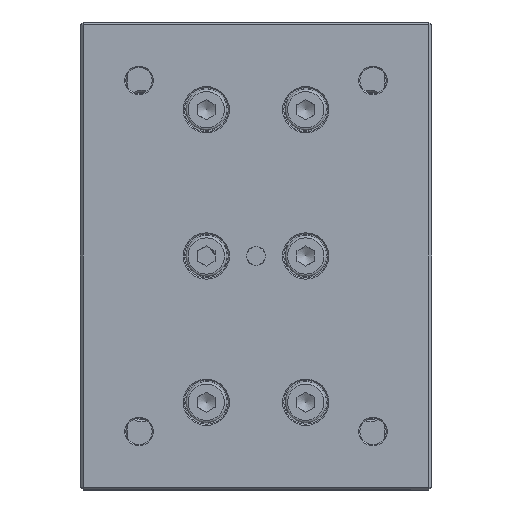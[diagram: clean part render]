
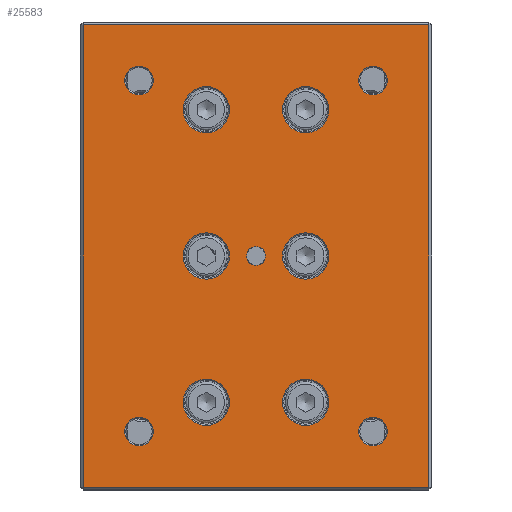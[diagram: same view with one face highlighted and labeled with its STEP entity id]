
A CAD part, front view. The second image highlights one B-rep face of the part: STEP entity #25583.
In plain terms, the highlighted planar face has unit normal (0, -1, 0).
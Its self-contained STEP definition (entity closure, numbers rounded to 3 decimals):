
#845=FACE_BOUND('',#3994,.T.);
#846=FACE_BOUND('',#3995,.T.);
#847=FACE_BOUND('',#3996,.T.);
#848=FACE_BOUND('',#3997,.T.);
#849=FACE_BOUND('',#3998,.T.);
#850=FACE_BOUND('',#3999,.T.);
#851=FACE_BOUND('',#4000,.T.);
#852=FACE_BOUND('',#4001,.T.);
#853=FACE_BOUND('',#4002,.T.);
#854=FACE_BOUND('',#4003,.T.);
#855=FACE_BOUND('',#4004,.T.);
#1489=PLANE('',#27237);
#2541=FACE_OUTER_BOUND('',#3993,.T.);
#3993=EDGE_LOOP('',(#19051,#19052,#19053,#19054));
#3994=EDGE_LOOP('',(#19055));
#3995=EDGE_LOOP('',(#19056));
#3996=EDGE_LOOP('',(#19057));
#3997=EDGE_LOOP('',(#19058));
#3998=EDGE_LOOP('',(#19059));
#3999=EDGE_LOOP('',(#19060));
#4000=EDGE_LOOP('',(#19061));
#4001=EDGE_LOOP('',(#19062));
#4002=EDGE_LOOP('',(#19063));
#4003=EDGE_LOOP('',(#19064));
#4004=EDGE_LOOP('',(#19065));
#5180=CIRCLE('',#27238,2.45);
#5181=CIRCLE('',#27239,2.45);
#5182=CIRCLE('',#27240,3.95);
#5183=CIRCLE('',#27241,3.95);
#5184=CIRCLE('',#27242,3.95);
#5185=CIRCLE('',#27243,1.621);
#5186=CIRCLE('',#27244,3.95);
#5187=CIRCLE('',#27245,3.95);
#5188=CIRCLE('',#27246,3.95);
#5189=CIRCLE('',#27247,2.45);
#5190=CIRCLE('',#27248,2.45);
#6550=LINE('',#38638,#8878);
#6552=LINE('',#38641,#8880);
#6553=LINE('',#38643,#8881);
#6559=LINE('',#38654,#8887);
#8878=VECTOR('',#30705,10.);
#8880=VECTOR('',#30709,10.);
#8881=VECTOR('',#30712,10.);
#8887=VECTOR('',#30728,10.);
#11235=VERTEX_POINT('',#38606);
#11237=VERTEX_POINT('',#38612);
#11242=VERTEX_POINT('',#38626);
#11244=VERTEX_POINT('',#38631);
#11247=VERTEX_POINT('',#38674);
#11248=VERTEX_POINT('',#38676);
#11249=VERTEX_POINT('',#38678);
#11250=VERTEX_POINT('',#38680);
#11251=VERTEX_POINT('',#38682);
#11252=VERTEX_POINT('',#38684);
#11253=VERTEX_POINT('',#38686);
#11254=VERTEX_POINT('',#38688);
#11255=VERTEX_POINT('',#38690);
#11256=VERTEX_POINT('',#38692);
#11257=VERTEX_POINT('',#38694);
#14077=EDGE_CURVE('',#11237,#11244,#6550,.T.);
#14079=EDGE_CURVE('',#11244,#11242,#6552,.T.);
#14080=EDGE_CURVE('',#11242,#11235,#6553,.T.);
#14086=EDGE_CURVE('',#11235,#11237,#6559,.T.);
#14096=EDGE_CURVE('',#11247,#11247,#5180,.T.);
#14097=EDGE_CURVE('',#11248,#11248,#5181,.T.);
#14098=EDGE_CURVE('',#11249,#11249,#5182,.T.);
#14099=EDGE_CURVE('',#11250,#11250,#5183,.T.);
#14100=EDGE_CURVE('',#11251,#11251,#5184,.T.);
#14101=EDGE_CURVE('',#11252,#11252,#5185,.T.);
#14102=EDGE_CURVE('',#11253,#11253,#5186,.T.);
#14103=EDGE_CURVE('',#11254,#11254,#5187,.T.);
#14104=EDGE_CURVE('',#11255,#11255,#5188,.T.);
#14105=EDGE_CURVE('',#11256,#11256,#5189,.T.);
#14106=EDGE_CURVE('',#11257,#11257,#5190,.T.);
#19051=ORIENTED_EDGE('',*,*,#14077,.F.);
#19052=ORIENTED_EDGE('',*,*,#14086,.F.);
#19053=ORIENTED_EDGE('',*,*,#14080,.F.);
#19054=ORIENTED_EDGE('',*,*,#14079,.F.);
#19055=ORIENTED_EDGE('',*,*,#14096,.F.);
#19056=ORIENTED_EDGE('',*,*,#14097,.F.);
#19057=ORIENTED_EDGE('',*,*,#14098,.F.);
#19058=ORIENTED_EDGE('',*,*,#14099,.F.);
#19059=ORIENTED_EDGE('',*,*,#14100,.F.);
#19060=ORIENTED_EDGE('',*,*,#14101,.T.);
#19061=ORIENTED_EDGE('',*,*,#14102,.F.);
#19062=ORIENTED_EDGE('',*,*,#14103,.F.);
#19063=ORIENTED_EDGE('',*,*,#14104,.F.);
#19064=ORIENTED_EDGE('',*,*,#14105,.F.);
#19065=ORIENTED_EDGE('',*,*,#14106,.F.);
#25583=ADVANCED_FACE('',(#2541,#845,#846,#847,#848,#849,#850,#851,#852,
#853,#854,#855),#1489,.T.);
#27237=AXIS2_PLACEMENT_3D('',#38673,#30754,#30755);
#27238=AXIS2_PLACEMENT_3D('',#38675,#30756,#30757);
#27239=AXIS2_PLACEMENT_3D('',#38677,#30758,#30759);
#27240=AXIS2_PLACEMENT_3D('',#38679,#30760,#30761);
#27241=AXIS2_PLACEMENT_3D('',#38681,#30762,#30763);
#27242=AXIS2_PLACEMENT_3D('',#38683,#30764,#30765);
#27243=AXIS2_PLACEMENT_3D('',#38685,#30766,#30767);
#27244=AXIS2_PLACEMENT_3D('',#38687,#30768,#30769);
#27245=AXIS2_PLACEMENT_3D('',#38689,#30770,#30771);
#27246=AXIS2_PLACEMENT_3D('',#38691,#30772,#30773);
#27247=AXIS2_PLACEMENT_3D('',#38693,#30774,#30775);
#27248=AXIS2_PLACEMENT_3D('',#38695,#30776,#30777);
#30705=DIRECTION('',(-1.,0.,0.));
#30709=DIRECTION('',(0.,0.,1.));
#30712=DIRECTION('',(1.,0.,0.));
#30728=DIRECTION('',(0.,0.,-1.));
#30754=DIRECTION('center_axis',(0.,-1.,0.));
#30755=DIRECTION('ref_axis',(1.,0.,0.));
#30756=DIRECTION('center_axis',(0.,-1.,0.));
#30757=DIRECTION('ref_axis',(1.,0.,0.));
#30758=DIRECTION('center_axis',(0.,-1.,0.));
#30759=DIRECTION('ref_axis',(1.,0.,0.));
#30760=DIRECTION('center_axis',(0.,-1.,0.));
#30761=DIRECTION('ref_axis',(-1.,0.,0.));
#30762=DIRECTION('center_axis',(0.,-1.,0.));
#30763=DIRECTION('ref_axis',(-1.,0.,0.));
#30764=DIRECTION('center_axis',(0.,-1.,0.));
#30765=DIRECTION('ref_axis',(-1.,0.,0.));
#30766=DIRECTION('center_axis',(0.,1.,0.));
#30767=DIRECTION('ref_axis',(1.,0.,0.));
#30768=DIRECTION('center_axis',(0.,-1.,0.));
#30769=DIRECTION('ref_axis',(-1.,0.,0.));
#30770=DIRECTION('center_axis',(0.,-1.,0.));
#30771=DIRECTION('ref_axis',(-1.,0.,0.));
#30772=DIRECTION('center_axis',(0.,-1.,0.));
#30773=DIRECTION('ref_axis',(-1.,0.,0.));
#30774=DIRECTION('center_axis',(0.,-1.,0.));
#30775=DIRECTION('ref_axis',(1.,0.,0.));
#30776=DIRECTION('center_axis',(0.,-1.,0.));
#30777=DIRECTION('ref_axis',(1.,0.,0.));
#38606=CARTESIAN_POINT('',(34.886,-24.507,-11.378));
#38612=CARTESIAN_POINT('',(34.886,-24.507,-90.378));
#38626=CARTESIAN_POINT('',(-24.114,-24.507,-11.378));
#38631=CARTESIAN_POINT('',(-24.114,-24.507,-90.378));
#38638=CARTESIAN_POINT('',(-9.614,-24.507,-90.378));
#38641=CARTESIAN_POINT('',(-24.114,-24.507,-90.878));
#38643=CARTESIAN_POINT('',(-9.614,-24.507,-11.378));
#38654=CARTESIAN_POINT('',(34.886,-24.507,-90.878));
#38673=CARTESIAN_POINT('Origin',(-24.614,-24.507,-90.878));
#38674=CARTESIAN_POINT('',(-17.064,-24.507,-20.878));
#38675=CARTESIAN_POINT('Origin',(-14.614,-24.507,-20.878));
#38676=CARTESIAN_POINT('',(-17.064,-24.507,-80.878));
#38677=CARTESIAN_POINT('Origin',(-14.614,-24.507,-80.878));
#38678=CARTESIAN_POINT('',(0.836,-24.507,-25.878));
#38679=CARTESIAN_POINT('Origin',(-3.114,-24.507,-25.878));
#38680=CARTESIAN_POINT('',(0.836,-24.507,-50.878));
#38681=CARTESIAN_POINT('Origin',(-3.114,-24.507,-50.878));
#38682=CARTESIAN_POINT('',(0.836,-24.507,-75.878));
#38683=CARTESIAN_POINT('Origin',(-3.114,-24.507,-75.878));
#38684=CARTESIAN_POINT('',(3.765,-24.507,-50.878));
#38685=CARTESIAN_POINT('Origin',(5.386,-24.507,-50.878));
#38686=CARTESIAN_POINT('',(17.836,-24.507,-75.878));
#38687=CARTESIAN_POINT('Origin',(13.886,-24.507,-75.878));
#38688=CARTESIAN_POINT('',(17.836,-24.507,-50.878));
#38689=CARTESIAN_POINT('Origin',(13.886,-24.507,-50.878));
#38690=CARTESIAN_POINT('',(17.836,-24.507,-25.878));
#38691=CARTESIAN_POINT('Origin',(13.886,-24.507,-25.878));
#38692=CARTESIAN_POINT('',(22.936,-24.507,-80.878));
#38693=CARTESIAN_POINT('Origin',(25.386,-24.507,-80.878));
#38694=CARTESIAN_POINT('',(22.936,-24.507,-20.878));
#38695=CARTESIAN_POINT('Origin',(25.386,-24.507,-20.878));
